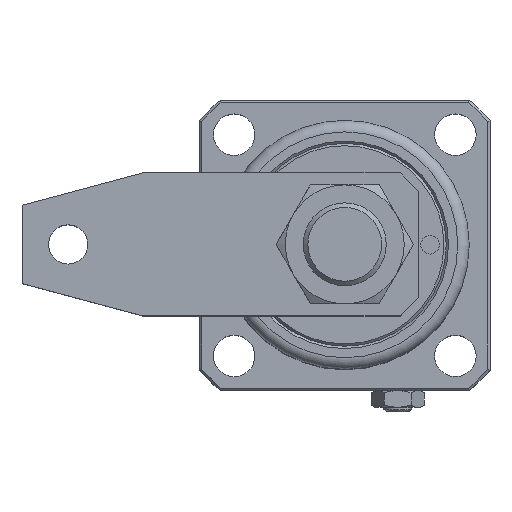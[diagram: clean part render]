
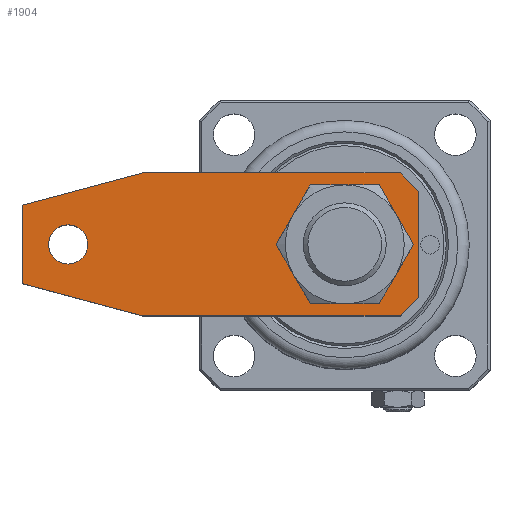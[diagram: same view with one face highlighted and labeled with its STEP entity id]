
A CAD part, top view. The second image highlights one B-rep face of the part: STEP entity #1904.
In plain terms, the highlighted planar face has unit normal (0, 0, 1).
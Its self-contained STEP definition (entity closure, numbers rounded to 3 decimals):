
#249=CIRCLE('',#2465,4.25);
#250=CIRCLE('',#2466,9.5);
#765=ORIENTED_EDGE('',*,*,#1026,.F.);
#766=ORIENTED_EDGE('',*,*,#1027,.F.);
#767=ORIENTED_EDGE('',*,*,#1000,.T.);
#768=ORIENTED_EDGE('',*,*,#1004,.T.);
#769=ORIENTED_EDGE('',*,*,#1007,.T.);
#770=ORIENTED_EDGE('',*,*,#1010,.T.);
#771=ORIENTED_EDGE('',*,*,#1013,.T.);
#772=ORIENTED_EDGE('',*,*,#1016,.T.);
#773=ORIENTED_EDGE('',*,*,#1019,.T.);
#774=ORIENTED_EDGE('',*,*,#1022,.T.);
#1000=EDGE_CURVE('',#1179,#1180,#1245,.T.);
#1004=EDGE_CURVE('',#1180,#1183,#1249,.T.);
#1007=EDGE_CURVE('',#1183,#1185,#1252,.T.);
#1010=EDGE_CURVE('',#1185,#1187,#1255,.T.);
#1013=EDGE_CURVE('',#1187,#1189,#1258,.T.);
#1016=EDGE_CURVE('',#1189,#1191,#1261,.T.);
#1019=EDGE_CURVE('',#1191,#1193,#1264,.T.);
#1022=EDGE_CURVE('',#1193,#1179,#1267,.T.);
#1026=EDGE_CURVE('',#1197,#1197,#249,.T.);
#1027=EDGE_CURVE('',#1198,#1198,#250,.T.);
#1179=VERTEX_POINT('',#3870);
#1180=VERTEX_POINT('',#3871);
#1183=VERTEX_POINT('',#3879);
#1185=VERTEX_POINT('',#3885);
#1187=VERTEX_POINT('',#3891);
#1189=VERTEX_POINT('',#3897);
#1191=VERTEX_POINT('',#3903);
#1193=VERTEX_POINT('',#3909);
#1197=VERTEX_POINT('',#3923);
#1198=VERTEX_POINT('',#3925);
#1245=LINE('',#3869,#1313);
#1249=LINE('',#3878,#1317);
#1252=LINE('',#3884,#1320);
#1255=LINE('',#3890,#1323);
#1258=LINE('',#3896,#1326);
#1261=LINE('',#3902,#1329);
#1264=LINE('',#3908,#1332);
#1267=LINE('',#3914,#1335);
#1313=VECTOR('',#2904,1000.);
#1317=VECTOR('',#2910,1000.);
#1320=VECTOR('',#2915,1000.);
#1323=VECTOR('',#2920,1000.);
#1326=VECTOR('',#2925,1000.);
#1329=VECTOR('',#2930,1000.);
#1332=VECTOR('',#2935,1000.);
#1335=VECTOR('',#2940,1000.);
#1518=EDGE_LOOP('',(#765));
#1519=EDGE_LOOP('',(#766));
#1520=EDGE_LOOP('',(#767,#768,#769,#770,#771,#772,#773,#774));
#1710=FACE_BOUND('',#1518,.T.);
#1711=FACE_BOUND('',#1519,.T.);
#1712=FACE_BOUND('',#1520,.T.);
#1776=PLANE('',#2464);
#1904=ADVANCED_FACE('',(#1710,#1711,#1712),#1776,.F.);
#2464=AXIS2_PLACEMENT_3D('',#3921,#2948,#2949);
#2465=AXIS2_PLACEMENT_3D('',#3922,#2950,#2951);
#2466=AXIS2_PLACEMENT_3D('',#3924,#2952,#2953);
#2904=DIRECTION('',(-0.707,0.707,0.));
#2910=DIRECTION('',(-1.,0.,0.));
#2915=DIRECTION('',(-0.966,-0.259,0.));
#2920=DIRECTION('',(0.,-1.,0.));
#2925=DIRECTION('',(0.966,-0.259,0.));
#2930=DIRECTION('',(1.,0.,0.));
#2935=DIRECTION('',(0.707,0.707,0.));
#2940=DIRECTION('',(0.,1.,0.));
#2948=DIRECTION('',(0.,0.,-1.));
#2949=DIRECTION('',(0.,1.,0.));
#2950=DIRECTION('',(0.,0.,1.));
#2951=DIRECTION('',(1.,0.,0.));
#2952=DIRECTION('',(0.,0.,1.));
#2953=DIRECTION('',(1.,0.,0.));
#3869=CARTESIAN_POINT('',(39.,31.,9.));
#3870=CARTESIAN_POINT('',(43.,27.,9.));
#3871=CARTESIAN_POINT('',(39.,31.,9.));
#3878=CARTESIAN_POINT('',(39.,31.,9.));
#3879=CARTESIAN_POINT('',(-16.876,31.,9.));
#3884=CARTESIAN_POINT('',(-43.,24.,9.));
#3885=CARTESIAN_POINT('',(-43.,24.,9.));
#3890=CARTESIAN_POINT('',(-43.,24.,9.));
#3891=CARTESIAN_POINT('',(-43.,7.,9.));
#3896=CARTESIAN_POINT('',(-43.,7.,9.));
#3897=CARTESIAN_POINT('',(-16.876,0.,9.));
#3902=CARTESIAN_POINT('',(-16.876,0.,9.));
#3903=CARTESIAN_POINT('',(39.,0.,9.));
#3908=CARTESIAN_POINT('',(39.,0.,9.));
#3909=CARTESIAN_POINT('',(43.,4.,9.));
#3914=CARTESIAN_POINT('',(43.,4.,9.));
#3921=CARTESIAN_POINT('',(0.,0.,9.));
#3922=CARTESIAN_POINT('',(-33.,15.5,9.));
#3923=CARTESIAN_POINT('',(-28.75,15.5,9.));
#3924=CARTESIAN_POINT('',(27.,15.5,9.));
#3925=CARTESIAN_POINT('',(36.5,15.5,9.));
